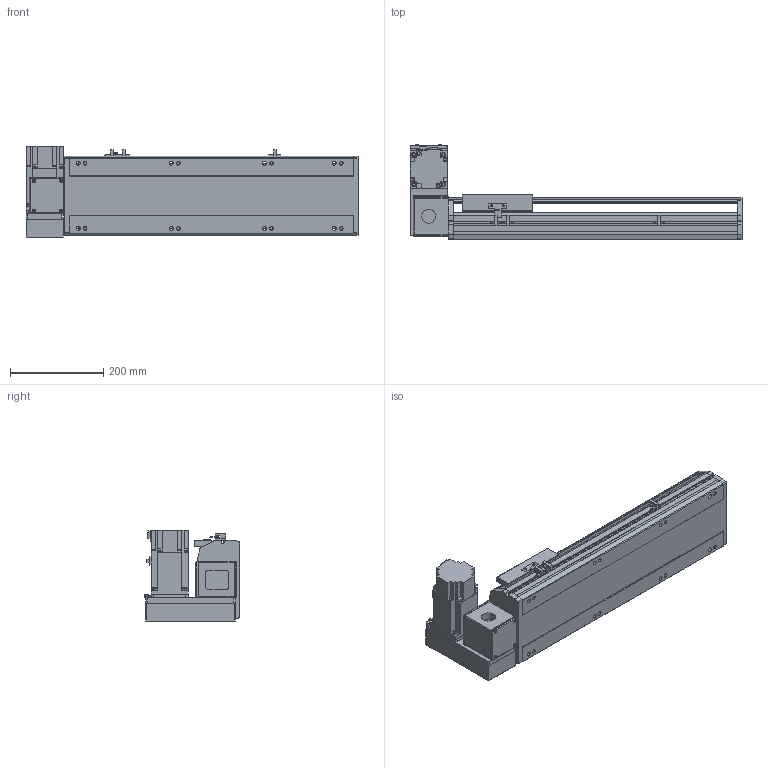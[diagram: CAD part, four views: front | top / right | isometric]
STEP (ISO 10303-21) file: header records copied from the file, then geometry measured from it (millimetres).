
FILE_DESCRIPTION( ( 'STEP AP214' ), '1' );
FILE_NAME( 'x:/temp/worker_4/temp/exporttempdir_2248_384_z4T8F/format_0/PBS170-P40-S350-LU-T75-C1-N(0).stp', '2022-06-07T08:14:08', ( 'License CC BY-ND 4.0' ), ( 'CADENAS' ), ' ', 'PARTsolutions', ' ' );
FILE_SCHEMA( ( 'AUTOMOTIVE_DESIGN { 1 0 10303 214 1 1 1 1 }' ) );
Length unit declared in the file: millimetre
Products named in the file (7): PBS170-P40-S350-LU-T75-C1-N(0); _PBS170-S350()_body; _PBS170T-LU_motors; _T75-p1; _PBS170_sliser; _PBS170_plant; _PBS170_sensor
Assembly tree (8 placements, depth 2):
  PBS170-P40-S350-LU-T75-C1-N(0)
    _PBS170-S350()_body
    _PBS170T-LU_motors
    _T75-p1
    _PBS170_sliser
    _PBS170_plant
    _PBS170_sensor  x3
Bounding box: 713 x 206 x 197.3 mm (x, y, z)
Volume: 6359559.9 mm3; surface area: 881161.6 mm2
Topology: 8 solids, 8 shells, 1018 faces, 2715 edges, 1770 vertices
Faces by surface type: plane 663, cylinder 307, cone 38, sphere 8, torus 2
Full cylindrical faces by diameter (mm): 3.242 x4, 4 x2, 4.4 x4, 4.5 x6, 4.917 x4, 6 x9, 6.647 x16, 7 x2, 7.5 x4, 8 x8, 8.5 x8, 10 x4, 10.5 x8, 11 x2, 30 x2, 40 x1, 70 x1
Entity records: 37172 total; most frequent: CARTESIAN_POINT 5549, DIRECTION 5020, ORIENTED_EDGE 4788, EDGE_CURVE 2394, AXIS2_PLACEMENT_3D 1717, VERTEX_POINT 1634, LINE 1586, VECTOR 1586
